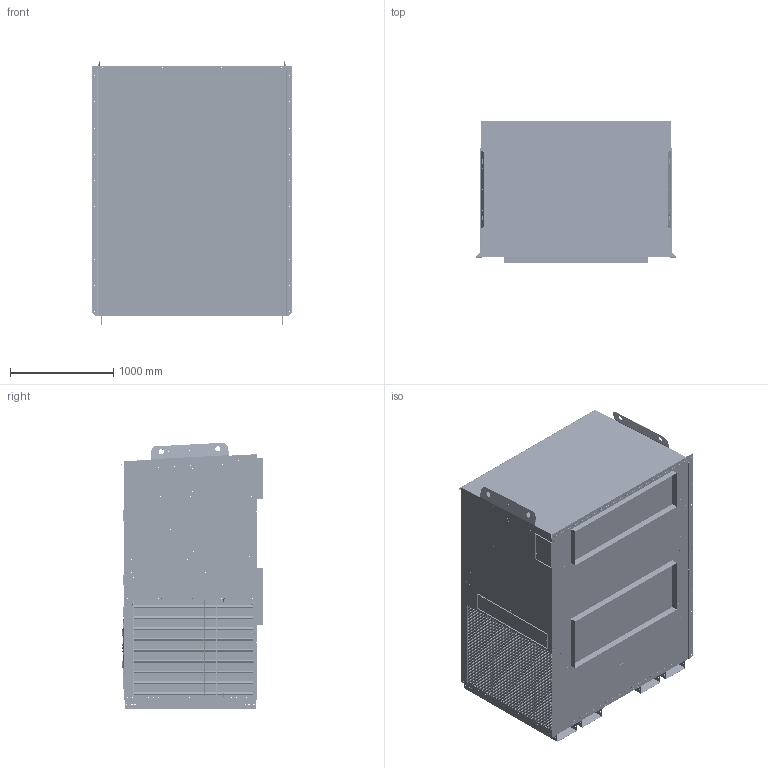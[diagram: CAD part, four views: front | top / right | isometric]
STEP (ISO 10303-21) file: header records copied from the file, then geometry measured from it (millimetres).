
FILE_DESCRIPTION (( 'STEP AP214' ), '1' );
FILE_NAME ('ECUA240-AU.STEP', '2020-03-06T20:55:07', ( '' ), ( '' ), 'SwSTEP 2.0', 'SolidWorks 2020', '' );
FILE_SCHEMA (( 'AUTOMOTIVE_DESIGN' ));
Length unit declared in the file: inch
Products named in the file (57): MD09505; 10421; MD09450; MD09441; MB09519; ECUA240-AU; MD09499; ZP120KCE-TFD-130; MD09525; BLOCK OFF PLATE, FRONT^ECUA240; 02146; MD09563-SW; MD09503; MD09443; BLOCK OFF PLATE, REAR^ECUA240; 02145; MD09454; MD09558; MD09560; MD09449; 90857; MD13599; MD13598; MD09442; 90857 LARGE LOOP; MD09518; BLOCK OFF PLATE, SIDE^ECUA240; 90857 SMALL LOOP; MD09453; MD09565; 02146 RH TOP; 30178; MD09457; MD09563; MD09561; 02145 LH TOP; MD09524; MD09504; 02145 LH BOTTOM; 02146 RH BOTTOM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
Assembly tree (114 placements, depth 3):
  ECUA240-AU
    MD09441
    MD09442
    MD09443
    MD09449
    MD09450
    MD09452
    MD09453
    MD09454
    MD09457
    MD09499
    MD09500
    MD09503
    MD09504
    MD09505  x3
    MD09507
    MD09518  x4
    MB09519  x2
    MD09524  x2
    MD09525
    MD09526
    MD09541
    MD09558  x2
    MD09560
    MD09561  x2
    MD09563-SW
      MD09563
      MD09565
    MD09563-SW
      MD09563
      MD09565
    MD13597
    MD13598
    MD13599
    02145
      02145 LH BOTTOM
      02145 LH TOP
    02145
      02145 LH BOTTOM
      02145 LH TOP
    02145
      02145 LH BOTTOM
      02145 LH TOP
    02145
      02145 LH BOTTOM
      02145 LH TOP
    02146
      02146 RH BOTTOM
      02146 RH TOP
    02146
      02146 RH BOTTOM
      02146 RH TOP
    02146
      02146 RH BOTTOM
      02146 RH TOP
    02146
      02146 RH BOTTOM
      02146 RH TOP
    10421
      ZP120KCE-TFD-130
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Bounding box: 1930.4 x 1369.08 x 2582.67 mm (x, y, z)
Volume: 79381902.4 mm3; surface area: 68377029.5 mm2
Topology: 382 solids, 436 shells, 10307 faces, 24221 edges, 15296 vertices
Faces by surface type: plane 4832, cylinder 3141, bspline 1510, cone 478, torus 244, sphere 102
Full cylindrical faces by diameter (mm): 2.54 x6, 2.667 x206, 3.048 x56, 3.175 x28, 3.2 x6, 3.556 x8, 3.581 x206, 3.785 x1, 3.962 x36, 4.5 x2, 4.7 x8, 5.105 x54, 5.156 x7, 5.4 x2, 6 x8, 6.3 x2, 6.35 x374, 6.91 x2, 6.934 x6, 7.137 x24, 7.95 x52, 8 x18, 8.128 x6, 8.4 x8, 8.687 x8, 9 x32, 9.5 x28, 9.525 x87, 9.906 x6, 10 x40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
Entity records: 270072 total; most frequent: CARTESIAN_POINT 118365, ORIENTED_EDGE 23334, DIRECTION 23199, EDGE_CURVE 11690, EDGE_LOOP 9435, AXIS2_PLACEMENT_3D 8895, VERTEX_POINT 8264, FACE_OUTER_BOUND 7043
